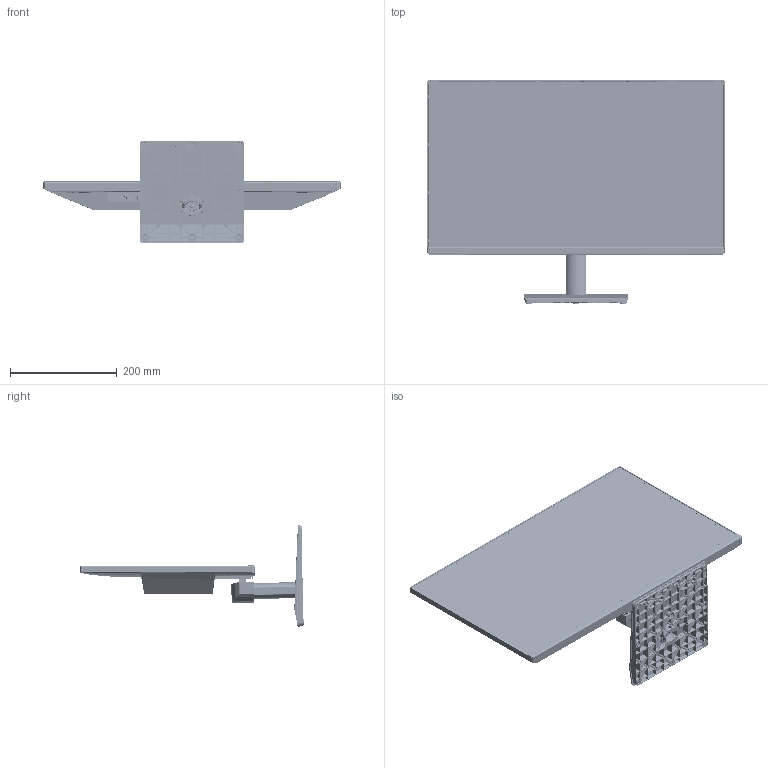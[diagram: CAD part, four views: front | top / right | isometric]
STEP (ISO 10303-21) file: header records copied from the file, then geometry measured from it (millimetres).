
FILE_DESCRIPTION((''),'2;1');
FILE_NAME('00_25M2320_0831_ASM','2024-03-13T',('bing.qu'),(''),'CREO PARAMETRIC BY PTC INC, 2016380','CREO PARAMETRIC BY PTC INC, 2016380','');
FILE_SCHEMA(('AUTOMOTIVE_DESIGN { 1 0 10303 214 1 1 1 1 }'));
Products named in the file (786): CSOT-100H-IPS_SG2451B03-1-; OC_ASM; 25M2320_M_BC_67-BCM2A0-2G0_0625; 55-DCM0A0-0HQH-FRONTFRAME_0822; M25-5; PAD-00; PAD-1; 00_25M_LCM_ASM; 67-SCM2A0-0G0; POWER-PCB120X65_30W-42W-NEW_4; OPEN_CASCADE_STEP_TRANSLAT-1482; BOARD_ASM; EXTRUDED-26571; 9132729072_ASM; UB801_ASM; EXTRUDED-26794; 6292322272_ASM; EXTRUDED-26991; 6292321792_ASM; RB916_ASM; RB915_ASM; EXTRUDED-27260; 6290717280_ASM; EXTRUDED-27457; 6290717520_ASM; RB914_ASM; EXTRUDED-27680; 6292628848_ASM; EXTRUDED-27872; 6292625888_ASM; RB913_ASM; RB905_ASM; RB903_ASM; EXTRUDED-28192; 6285408544_ASM; EXTRUDED-28384; 6285408304_ASM; RB839_ASM; RB838_ASM; RB837_ASM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
Assembly tree (1942 placements, depth 17):
  00_25M2320_0831_ASM
    OC_ASM
      CSOT-100H-IPS_SG2451B03-1-
    00_25M_LCM_ASM
      25M2320_M_BC_67-BCM2A0-2G0_0625
      55-DCM0A0-0HQH-FRONTFRAME_0822
      M25-5  x7
      PAD-00  x2
      PAD-1  x2
    ELE_ASM
      67-SCM2A0-0G0
      POWER-PCB120X65_30W-42W-NEW_4
      ME_RT2313_EB788_ASM
        PCB_ASM
          BOARD_ASM
            OPEN_CASCADE_STEP_TRANSLAT-1482
          UB801_ASM
            9132729072_ASM
              EXTRUDED-26571
          RB916_ASM
            6292322272_ASM  x2
              EXTRUDED-26794
            6292321792_ASM
              EXTRUDED-26991
          RB915_ASM
            6292321792_ASM
              EXTRUDED-26991
            6292322272_ASM  x2
              EXTRUDED-26794
          RB914_ASM
            6290717280_ASM  x2
              EXTRUDED-27260
            6290717520_ASM
              EXTRUDED-27457
          RB913_ASM
            6292628848_ASM  x2
              EXTRUDED-27680
            6292625888_ASM
              EXTRUDED-27872
          RB905_ASM
            6292628848_ASM  x2
              EXTRUDED-27680
            6292625888_ASM
              EXTRUDED-27872
          RB903_ASM
            6292628848_ASM  x2
              EXTRUDED-27680
            6292625888_ASM
              EXTRUDED-27872
          RB839_ASM
            6285408544_ASM
              EXTRUDED-28192
            6285408304_ASM  x2
              EXTRUDED-28384
          RB838_ASM
            6285408544_ASM
              EXTRUDED-28192
            6285408304_ASM  x2
              EXTRUDED-28384
          RB837_ASM
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Bounding box: 557.49 x 418.76 x 191.46 mm (x, y, z)
Volume: 1138480.7 mm3; surface area: 1681029.8 mm2
Topology: 1355 solids, 1355 shells, 33118 faces, 86437 edges, 56524 vertices
Faces by surface type: plane 24025, cylinder 5649, bspline 2253, cone 456, torus 394, extrusion 262, sphere 75, revolution 4
Entity records: 977389 total; most frequent: CARTESIAN_POINT 263311, ORIENTED_EDGE 126674, DIRECTION 114542, EDGE_CURVE 63337, VECTOR 44734, LINE 44619, VERTEX_POINT 41604, AXIS2_PLACEMENT_3D 34902
